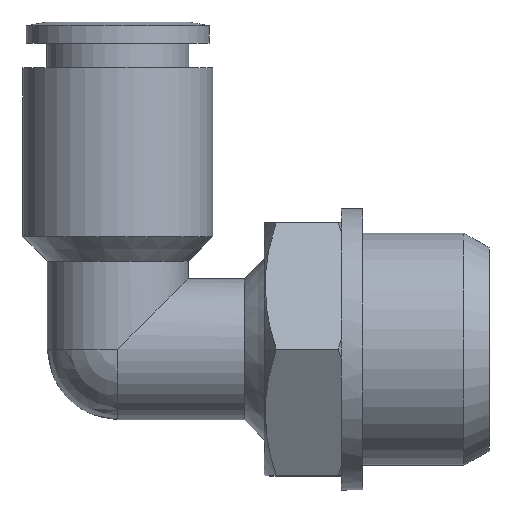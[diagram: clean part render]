
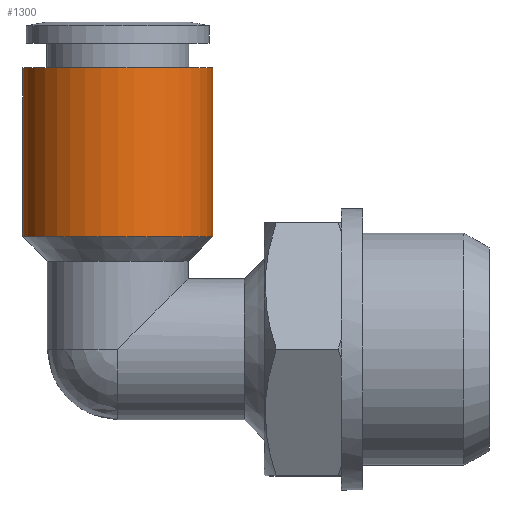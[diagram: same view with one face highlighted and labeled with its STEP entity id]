
A CAD part, top view. The second image highlights one B-rep face of the part: STEP entity #1300.
In plain terms, the highlighted cylindrical face has radius 6.75 mm (diameter 13.5 mm), a full revolution.
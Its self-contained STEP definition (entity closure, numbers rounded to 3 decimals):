
#1266=CARTESIAN_POINT('',(-6.75,8.,0.0));
#1267=VERTEX_POINT('',#1266);
#1268=CARTESIAN_POINT('',(0.0,8.,0.0));
#1269=DIRECTION('',(0.0,1.0,0.0));
#1270=DIRECTION('',(-1.0,0.0,0.0));
#1271=AXIS2_PLACEMENT_3D('',#1268,#1269,#1270);
#1272=CIRCLE('',#1271,6.75);
#1273=EDGE_CURVE('',#1267,#1267,#1272,.T.);
#1281=CARTESIAN_POINT('',(0.0,14.0,0.0));
#1282=DIRECTION('',(0.0,1.0,0.0));
#1283=DIRECTION('',(-1.0,0.0,0.0));
#1284=AXIS2_PLACEMENT_3D('',#1281,#1282,#1283);
#1285=CYLINDRICAL_SURFACE('',#1284,6.75);
#1286=CARTESIAN_POINT('',(-6.75,20.0,0.0));
#1287=VERTEX_POINT('',#1286);
#1288=CARTESIAN_POINT('',(0.0,20.0,0.0));
#1289=DIRECTION('',(0.0,1.0,0.0));
#1290=DIRECTION('',(-1.0,0.0,0.0));
#1291=AXIS2_PLACEMENT_3D('',#1288,#1289,#1290);
#1292=CIRCLE('',#1291,6.75);
#1293=EDGE_CURVE('',#1287,#1287,#1292,.T.);
#1294=ORIENTED_EDGE('',*,*,#1293,.F.);
#1295=EDGE_LOOP('',(#1294));
#1296=FACE_OUTER_BOUND('',#1295,.T.);
#1297=ORIENTED_EDGE('',*,*,#1273,.T.);
#1298=EDGE_LOOP('',(#1297));
#1299=FACE_BOUND('',#1298,.T.);
#1300=ADVANCED_FACE('',(#1296,#1299),#1285,.T.);
